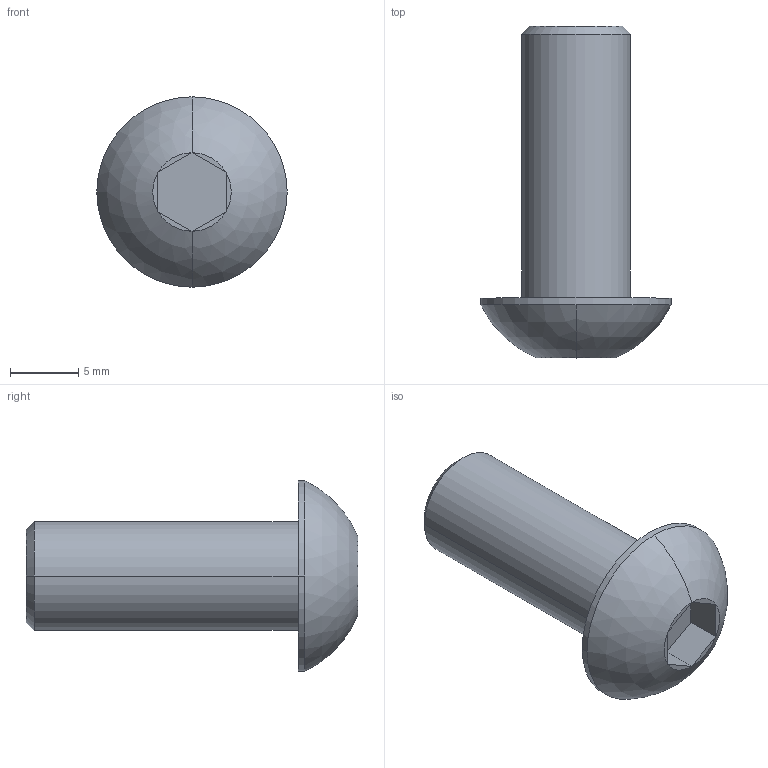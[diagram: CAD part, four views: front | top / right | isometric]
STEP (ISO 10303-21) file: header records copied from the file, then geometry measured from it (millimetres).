
FILE_DESCRIPTION((''),'2;1');
FILE_NAME('VTBEI0820','2002-12-27T',('Lipro doo'),('Lipro d.o.o.'),'PRO/ENGINEER BY PARAMETRIC TECHNOLOGY CORPORATION, 2001150','PRO/ENGINEER BY PARAMETRIC TECHNOLOGY CORPORATION, 2001150','');
FILE_SCHEMA(('CONFIG_CONTROL_DESIGN'));
Length unit declared in the file: millimetre
Products named in the file (1): VTBEI0820
Bounding box: 14 x 24.4 x 14 mm (x, y, z)
Volume: 1404 mm3; surface area: 1357 mm2
Topology: 1 solids, 2 shells, 25 faces, 50 edges, 28 vertices
Faces by surface type: plane 15, cylinder 6, cone 2, sphere 2
Entity records: 684 total; most frequent: DIRECTION 126, CARTESIAN_POINT 104, ORIENTED_EDGE 96, AXIS2_PLACEMENT_3D 50, EDGE_CURVE 50, VERTEX_POINT 28, VECTOR 26, LINE 26
